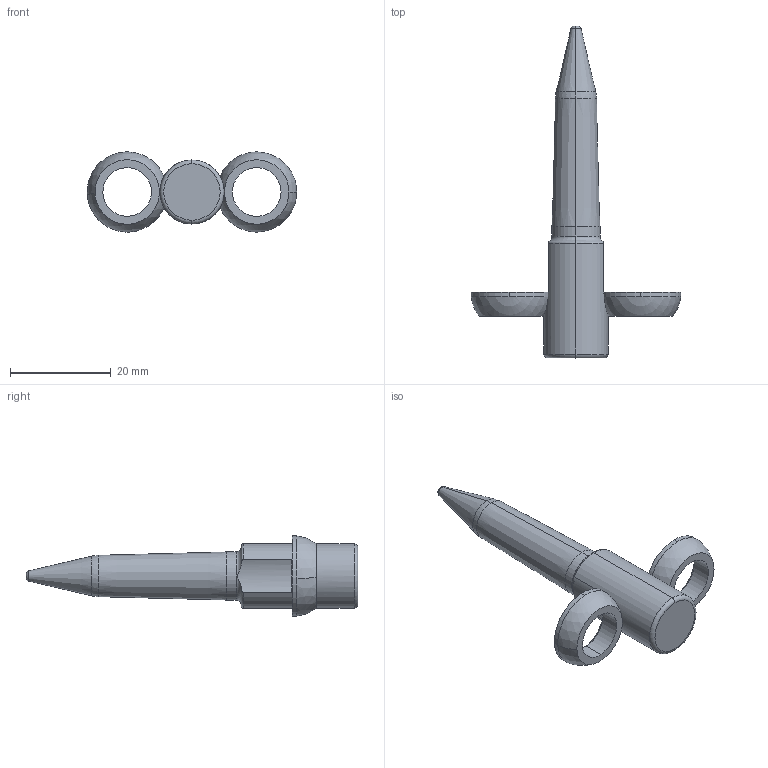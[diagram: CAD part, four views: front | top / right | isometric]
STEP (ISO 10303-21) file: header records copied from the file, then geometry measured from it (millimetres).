
FILE_DESCRIPTION (( 'STEP AP214' ), '1' );
FILE_NAME ('PA-T-.375-.075-1.0-3-A-F2.STEP', '2019-05-08T17:34:10', ( '' ), ( '' ), 'SwSTEP 2.0', 'SolidWorks 2017', '' );
FILE_SCHEMA (( 'AUTOMOTIVE_DESIGN' ));
Length unit declared in the file: inch
Products named in the file (3): SLPilot-PA-T-E_PA-T-.375-.075-1.0-3-A-F2; SLRadiusWasher_RadiusWasher-E; PA-T-.375-.075-1.0-3-A-F2
Assembly tree (3 placements, depth 2):
  PA-T-.375-.075-1.0-3-A-F2
    SLPilot-PA-T-E_PA-T-.375-.075-1.0-3-A-F2
    SLRadiusWasher_RadiusWasher-E  x2
Bounding box: 41.52 x 65.74 x 15.88 mm (x, y, z)
Volume: 5833.6 mm3; surface area: 3194.6 mm2
Topology: 3 solids, 3 shells, 49 faces, 112 edges, 69 vertices
Faces by surface type: cylinder 14, torus 11, sphere 8, cone 8, plane 8
Entity records: 1372 total; most frequent: CARTESIAN_POINT 320, DIRECTION 232, ORIENTED_EDGE 180, AXIS2_PLACEMENT_3D 107, EDGE_CURVE 90, CIRCLE 62, VERTEX_POINT 55, EDGE_LOOP 41
